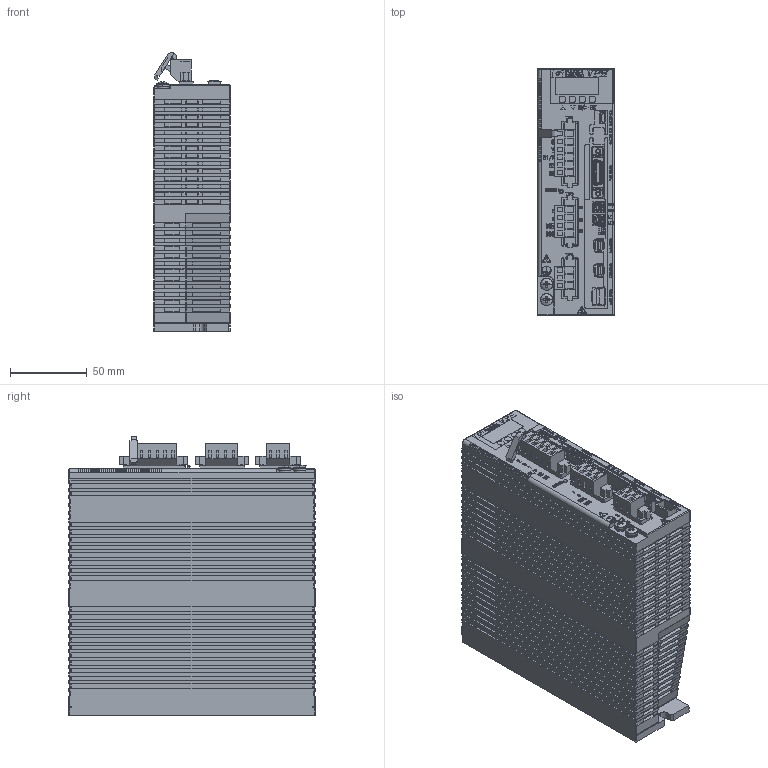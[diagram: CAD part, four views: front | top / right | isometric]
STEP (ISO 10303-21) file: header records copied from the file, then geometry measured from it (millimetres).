
FILE_DESCRIPTION (( 'STEP AP214' ), '1' );
FILE_NAME ('NCR-HE_Series(051-401)#SE-82460C.STEP', '2023-12-14T04:48:14', ( '' ), ( '' ), 'SwSTEP 2.0', 'SolidWorks 2022', '' );
FILE_SCHEMA (( 'AUTOMOTIVE_DESIGN' ));
Length unit declared in the file: millimetre
Products named in the file (1): NCR-HE_Series(051-401)#SE-82460C
Bounding box: 50 x 160 x 180.94 mm (x, y, z)
Volume: 1226538 mm3; surface area: 130842.5 mm2
Topology: 5 solids, 5 shells, 9480 faces, 27117 edges, 17943 vertices
Faces by surface type: plane 6617, cylinder 1856, bspline 869, cone 77, torus 57, sphere 4
Entity records: 386468 total; most frequent: CARTESIAN_POINT 98688, ORIENTED_EDGE 54216, DIRECTION 41580, EDGE_CURVE 27108, VECTOR 21028, LINE 21028, VERTEX_POINT 17943, AXIS2_PLACEMENT_3D 10276
